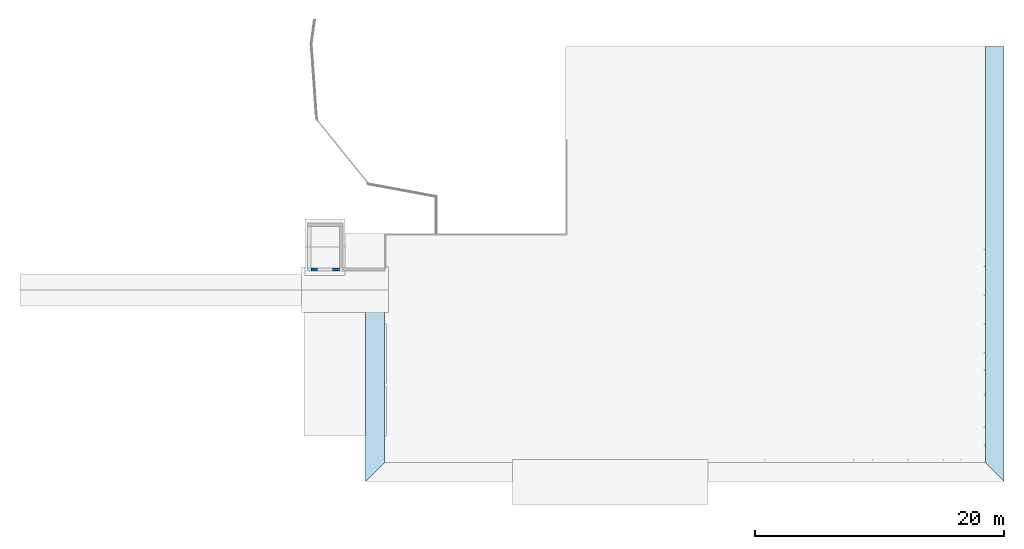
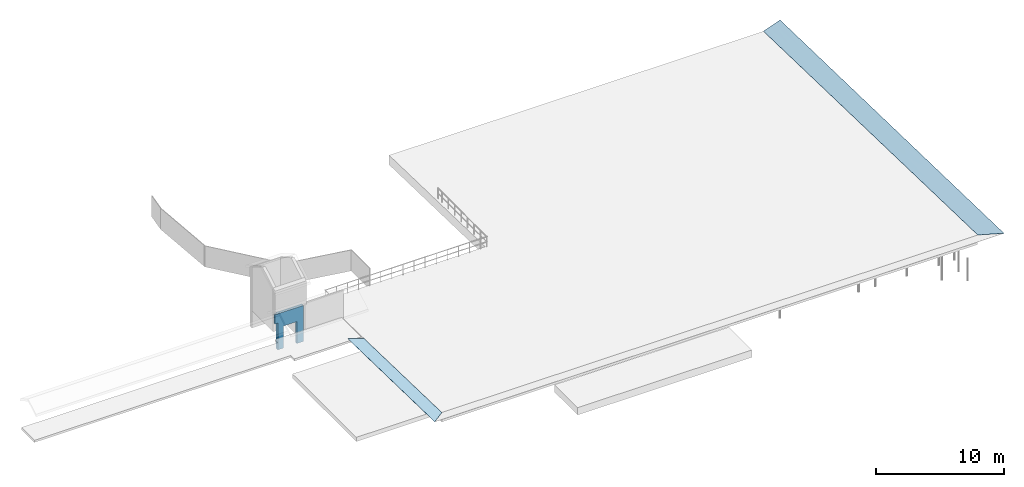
# One storey, part 2 of 7: 2 roofs, 1 wall.
"""IFC2X3 building model written with IfcOpenShell, lengths in millimetres."""

from ifc_helpers import new_model, entity, si_unit, converted_unit, derived_unit, direction, frame, origin, place, context, subcontext, project, spatial, faceted_brep, material, layer, layer_set, type_object, element, save


model = new_model("IFC2X3")

# Units and contexts
model_context = context("Model", 3, precision=0.01, world=origin(), true_north=direction((0.7716245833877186, 0.6360782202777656)))
body_context = subcontext(model_context, "Body", "Model", "MODEL_VIEW")
ifc_project = project(units=[si_unit("LENGTHUNIT", "METRE", prefix="MILLI"), si_unit("AREAUNIT", "SQUARE_METRE"), converted_unit("PLANEANGLEUNIT", "DEGREE", entity("IfcPlaneAngleMeasure", 0.017453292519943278), si_unit("PLANEANGLEUNIT", "RADIAN"), dimensions=[0, 0, 0, 0, 0, 0, 0]), derived_unit("THERMALTRANSMITTANCEUNIT", [(si_unit("MASSUNIT", "GRAM", prefix="KILO"), 1), (si_unit("THERMODYNAMICTEMPERATUREUNIT", "KELVIN"), -1), (si_unit("TIMEUNIT", "SECOND"), -3)])], contexts=[model_context])

# Site, building, storey
site_placement = place(None, origin())
site = spatial("IfcSite", under=ifc_project, at=site_placement, Name="Default", CompositionType="ELEMENT")
building_placement = place(site_placement, origin())
building = spatial("IfcBuilding", under=site, at=building_placement, CompositionType="ELEMENT")
storey_placement = place(building_placement, frame((0.0, 0.0, 37100.0)))
storey = spatial("IfcBuildingStorey", under=building, at=storey_placement, Name="PLAN 03 (EKS. TAK)", CompositionType="ELEMENT", Elevation=37100.0)

# Wall
ifc_material_1 = material(Name="Default Wall")
ifc_layer_1 = layer(ifc_material_1, 260.0)
ifc_layer_set_1 = layer_set([ifc_layer_1], Name="Basic Wall:240 Eksist. Innervegg 260 mm")
wall_type = type_object("IfcWallType", Name="Basic Wall:240 Eksist. Innervegg 260 mm", PredefinedType="STANDARD", material=ifc_layer_set_1)
wall_placement = place(storey_placement, frame((223603.92444647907, 68585.25555007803, 0.0)))
element("IfcWall", 1, at=wall_placement, inside=storey, type_object=wall_type, Name="Basic Wall:240 Eksist. Innervegg 260 mm", ObjectType="Basic Wall:240 Eksist. Innervegg 260 mm", context=body_context, shape_type="Brep", body=[
    faceted_brep([(2574.0, -130.0, 3440.0), (0.0, -130.0, 3440.0), (0.0, -130.0, 2550.0), (264.0, -130.0, 2550.0), (264.0, -130.0, 0.0), (799.0, -130.0, 0.0), (799.0, -130.0, 2100.0), (1999.0, -130.0, 2100.0), (1999.0, -130.0, 0.0), (2574.0, -130.0, 0.0), (264.0, 130.0, 0.0), (264.0, 130.0, 3440.0), (2574.0, 130.0, 3440.0), (2574.0, 130.0, 0.0), (1999.0, 130.0, 0.0), (1999.0, 130.0, 2100.0), (799.0, 130.0, 2100.0), (799.0, 130.0, 0.0), (264.0, 30.0, 3440.0), (0.0, 30.0, 3440.0), (264.0, 30.0, 2550.0), (0.0, 30.0, 2550.0)], [[[0, 1, 2, 3, 4, 5, 6, 7, 8, 9]], [[10, 11, 12, 13, 14, 15, 16, 17]], [[8, 14, 13, 9]], [[1, 0, 12, 11, 18, 19]], [[16, 6, 5, 17]], [[6, 16, 15, 7]], [[7, 15, 14, 8]], [[3, 20, 18, 11, 10, 4]], [[1, 19, 21, 2]], [[19, 18, 20, 21]], [[20, 3, 2, 21]], [[0, 9, 13, 12]], [[17, 5, 4, 10]]]),
])

# Roofs
ifc_material_2 = material(Name="Gitter")
ifc_layer_2 = layer(ifc_material_2, 10.0)
ifc_layer_set_2 = layer_set([ifc_layer_2], Name="Basic Roof:260 Gitter 10mm")
type_product = type_object("IfcTypeProduct", Name="Basic Roof:260 Gitter 10mm")
roof_1_placement = place(storey_placement, frame((228262.92444647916, 51550.4205741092, 990.0)))
element("IfcRoof", 2, at=roof_1_placement, inside=storey, type_object=type_product, material=ifc_layer_set_2, Name="Basic Roof:260 Gitter 10mm", ObjectType="Basic Roof:260 Gitter 10mm", ShapeType="NOTDEFINED", context=body_context, shape_type="Brep", body=[
    faceted_brep([(0.0, 0.0, 861.0), (465.181139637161, 465.181139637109, 691.6740651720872), (930.3622792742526, 930.3622792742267, 522.3481303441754), (1500.0, 1500.0, 315.0), (1500.0, 1500.0, 325.0), (930.3622792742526, 930.3622792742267, 532.3481303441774), (465.181139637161, 465.181139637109, 701.6740651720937), (0.0, 0.0, 871.0), (0.0, 13624.834975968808, 557.0), (0.0, 13624.834975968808, 547.0), (0.0, 11103.698732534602, 605.1024857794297), (0.0, 6812.4174879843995, 704.0), (0.0, 3406.2088528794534, 782.4999974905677), (0.0, 3406.2088528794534, 792.4999974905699), (0.0, 6812.4174879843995, 714.0), (0.0, 11103.698732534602, 615.1024857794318), (1500.0, 13624.834975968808, 10.0), (1500.0, 13624.834975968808, 0.0), (1034.8188686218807, 13624.834975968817, 169.63605257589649), (569.6377372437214, 13624.834975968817, 339.272105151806), (569.6377372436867, 13624.834975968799, 349.2721051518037), (1034.8188686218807, 13624.834975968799, 179.63605257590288), (1500.0, 5987.153496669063, 198.42494110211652), (1500.0, 9137.681479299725, 116.57505889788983), (1500.0, 9137.681479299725, 126.57505889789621), (1500.0, 5987.153496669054, 208.42494110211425), (373.9039370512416, 5564.520972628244, 611.8021365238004), (759.4547424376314, 6949.168064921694, 443.2451181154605), (389.5621184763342, 9091.490706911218, 522.5798830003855), (789.8250415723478, 10543.15400892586, 344.4948389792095), (389.5621184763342, 9091.490706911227, 512.5798830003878), (759.4547424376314, 6949.168064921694, 433.24511811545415), (373.9039370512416, 5564.520972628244, 601.8021365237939), (789.8250415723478, 10543.15400892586, 334.49483897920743)], [[[0, 1, 2, 3, 4, 5, 6, 7]], [[8, 9, 10, 11, 12, 0, 7, 13, 14, 15]], [[16, 17, 18, 19, 9, 8, 20, 21]], [[3, 22, 23, 17, 16, 24, 25, 4]], [[26, 27, 28]], [[5, 4, 25]], [[5, 25, 27]], [[26, 6, 27]], [[24, 29, 27]], [[28, 27, 29]], [[28, 14, 26]], [[28, 15, 14]], [[20, 8, 15]], [[21, 24, 16]], [[20, 15, 28]], [[24, 21, 29]], [[20, 28, 29]], [[25, 24, 27]], [[21, 20, 29]], [[26, 14, 13]], [[7, 6, 13]], [[13, 6, 26]], [[5, 27, 6]], [[30, 31, 32]], [[22, 3, 2]], [[31, 22, 2]], [[31, 1, 32]], [[31, 33, 23]], [[33, 31, 30]], [[32, 11, 30]], [[11, 10, 30]], [[10, 9, 19]], [[17, 23, 18]], [[30, 10, 19]], [[33, 18, 23]], [[33, 30, 19]], [[31, 23, 22]], [[33, 19, 18]], [[12, 11, 32]], [[12, 1, 0]], [[32, 1, 12]], [[1, 31, 2]]]),
])
roof_2_placement = place(storey_placement, frame((278067.92444647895, 51560.420574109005, 430.0)))
element("IfcRoof", 3, at=roof_2_placement, inside=storey, type_object=type_product, material=ifc_layer_set_2, Name="Basic Roof:260 Gitter 10mm", ObjectType="Basic Roof:260 Gitter 10mm", ShapeType="NOTDEFINED", context=body_context, shape_type="Brep", body=[
    faceted_brep([(0.0, 1500.0, 885.0), (0.0, 1500.0, 875.0), (571.5471120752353, 928.452887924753, 1083.043148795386), (1035.773556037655, 464.22644396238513, 1252.021574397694), (1500.0, 0.0, 1421.0), (1500.0, 0.0, 1431.0), (1035.773556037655, 464.22644396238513, 1262.021574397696), (571.5471120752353, 928.452887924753, 1093.0431487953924), (1500.0, 3968.7259306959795, 1322.0033649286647), (1500.0, 7937.451861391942, 1223.0067298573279), (1500.0, 11906.177792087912, 1124.010094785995), (1500.0, 15874.903722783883, 1025.0134597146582), (1500.0, 20645.689516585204, 906.010094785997), (1500.0, 25416.475310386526, 787.0067298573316), (1500.0, 30989.3209672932, 647.9966350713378), (1500.0, 34958.04689798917, 549.0), (1500.0, 34958.04689798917, 559.0), (1500.0, 30989.3209672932, 657.9966350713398), (1500.0, 25416.475310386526, 797.0067298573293), (1500.0, 20645.689516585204, 916.0100947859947), (1500.0, 15874.903722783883, 1035.0134597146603), (1500.0, 11906.177792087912, 1134.0100947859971), (1500.0, 7937.451861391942, 1233.0067298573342), (1500.0, 3968.7259306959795, 1332.003364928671), (928.4529579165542, 34958.04689798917, 339.81378259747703), (464.2264789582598, 34958.04689798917, 169.90689129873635), (0.0, 34958.04689798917, 0.0), (0.0, 34958.04689798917, 10.0), (464.2264789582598, 34958.04689798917, 179.90689129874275), (928.4529579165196, 34958.04689798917, 349.81378259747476), (0.0, 31159.613394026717, 99.3372185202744), (0.0, 26593.53511525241, 218.7500015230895), (0.0, 22411.27928212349, 328.125000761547), (0.0, 18229.02344899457, 437.50000000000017), (0.0, 14046.76761586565, 546.8749992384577), (0.0, 9864.51178273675, 656.2499984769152), (0.0, 5298.433503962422, 775.6627814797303), (0.0, 5298.433503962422, 785.6627814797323), (0.0, 9864.51178273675, 666.2499984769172), (0.0, 14046.76761586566, 556.8749992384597), (0.0, 18229.02344899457, 447.50000000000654), (0.0, 22411.27928212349, 338.12500076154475), (0.0, 26593.53511525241, 228.75000152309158), (0.0, 31159.613394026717, 109.33721852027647), (1048.6466935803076, 31278.99451137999, 486.87227911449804), (700.9319094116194, 7007.944688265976, 981.3504217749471), (1132.8011818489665, 6257.756280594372, 1148.7196221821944), (1052.061393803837, 14816.451793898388, 904.5143413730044), (609.4708404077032, 13665.847826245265, 779.1795014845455), (1053.234519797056, 10816.988602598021, 1006.0834049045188), (442.3950872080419, 10290.665064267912, 807.9594492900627), (767.4514623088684, 28344.451820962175, 459.6720518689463), (474.6841928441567, 24354.067755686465, 456.875254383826), (964.4168502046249, 24518.55230186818, 627.757780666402), (699.8374839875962, 17178.096532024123, 720.8692208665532), (804.2762303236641, 20676.388776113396, 668.4232528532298), (627.7314824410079, 31702.791972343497, 323.19394309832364), (381.2604031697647, 19854.160624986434, 539.7497519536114), (347.3793417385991, 29065.367498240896, 289.5424224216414), (1048.6466935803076, 31278.99451137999, 476.872279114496), (700.9319094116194, 7007.944688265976, 971.3504217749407), (1132.8011818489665, 6257.756280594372, 1138.7196221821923), (1053.234519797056, 10816.988602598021, 996.0834049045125), (609.4708404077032, 13665.847826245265, 769.1795014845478), (1052.061393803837, 14816.451793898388, 894.514341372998), (442.3950872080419, 10290.665064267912, 797.9594492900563), (964.4168502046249, 24518.55230186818, 617.7577806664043), (474.6841928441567, 24354.067755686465, 446.875254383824), (767.4514623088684, 28344.451820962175, 449.67205186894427), (699.8374839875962, 17178.096532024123, 710.8692208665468), (804.2762303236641, 20676.388776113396, 658.4232528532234), (627.7314824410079, 31702.791972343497, 313.1939430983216), (381.2604031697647, 19854.160624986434, 529.7497519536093), (347.3793417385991, 29065.367498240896, 279.54242242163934)], [[[0, 1, 2, 3, 4, 5, 6, 7]], [[4, 8, 9, 10, 11, 12, 13, 14, 15, 16, 17, 18, 19, 20, 21, 22, 23, 5]], [[15, 24, 25, 26, 27, 28, 29, 16]], [[27, 26, 30, 31, 32, 33, 34, 35, 36, 1, 0, 37, 38, 39, 40, 41, 42, 43]], [[44, 18, 17, 16]], [[45, 37, 7]], [[6, 23, 46]], [[47, 48, 49]], [[37, 50, 39, 38]], [[48, 40, 39]], [[22, 46, 23]], [[45, 50, 37]], [[37, 0, 7]], [[49, 21, 47]], [[45, 46, 49]], [[51, 52, 53]], [[47, 54, 48]], [[55, 47, 20]], [[44, 16, 29]], [[29, 28, 56]], [[55, 57, 54]], [[29, 56, 44]], [[52, 42, 41]], [[45, 7, 6]], [[6, 5, 23]], [[49, 46, 22]], [[6, 46, 45]], [[21, 20, 47]], [[49, 48, 50]], [[18, 53, 19]], [[54, 47, 55]], [[41, 57, 52]], [[49, 50, 45]], [[53, 52, 55]], [[40, 54, 57]], [[58, 52, 51]], [[52, 57, 55]], [[41, 40, 57]], [[53, 55, 19]], [[18, 51, 53]], [[49, 22, 21]], [[40, 48, 54]], [[39, 50, 48]], [[55, 20, 19]], [[56, 58, 51]], [[18, 44, 51]], [[56, 51, 44]], [[58, 56, 43]], [[28, 27, 43]], [[43, 56, 28]], [[43, 42, 58]], [[52, 58, 42]], [[14, 13, 59, 15]], [[2, 36, 60]], [[61, 8, 3]], [[62, 63, 64]], [[35, 34, 65, 36]], [[34, 33, 63]], [[8, 61, 9]], [[36, 65, 60]], [[2, 1, 36]], [[64, 10, 62]], [[62, 61, 60]], [[66, 67, 68]], [[63, 69, 64]], [[11, 64, 70]], [[24, 15, 59]], [[71, 25, 24]], [[69, 72, 70]], [[59, 71, 24]], [[32, 31, 67]], [[3, 2, 60]], [[8, 4, 3]], [[9, 61, 62]], [[60, 61, 3]], [[64, 11, 10]], [[65, 63, 62]], [[12, 66, 13]], [[70, 64, 69]], [[67, 72, 32]], [[60, 65, 62]], [[70, 67, 66]], [[72, 69, 33]], [[68, 67, 73]], [[70, 72, 67]], [[72, 33, 32]], [[12, 70, 66]], [[66, 68, 13]], [[10, 9, 62]], [[69, 63, 33]], [[63, 65, 34]], [[12, 11, 70]], [[68, 73, 71]], [[68, 59, 13]], [[59, 68, 71]], [[30, 71, 73]], [[30, 26, 25]], [[25, 71, 30]], [[73, 31, 30]], [[31, 73, 67]]]),
])

save(model, "model.ifc")
